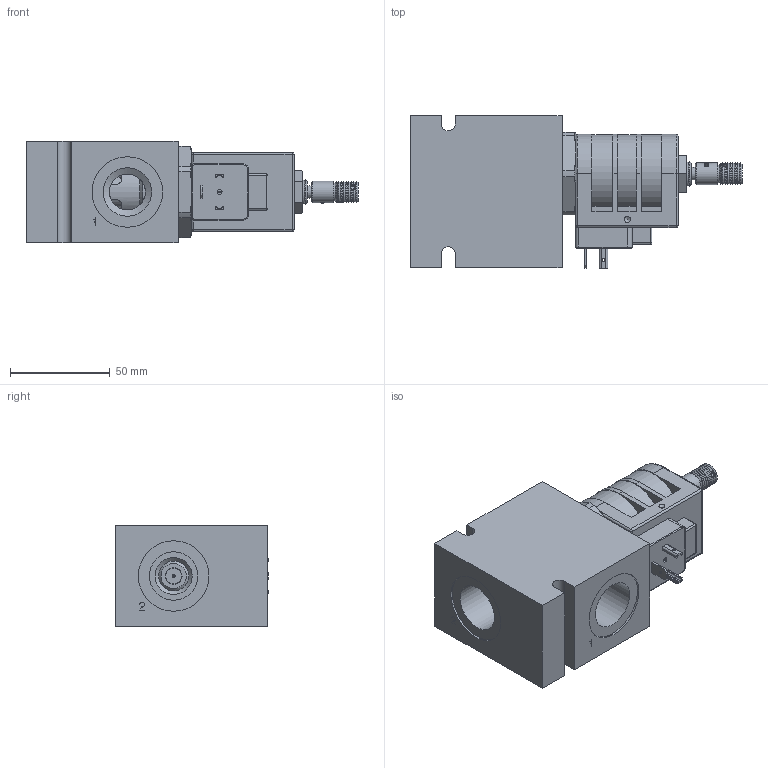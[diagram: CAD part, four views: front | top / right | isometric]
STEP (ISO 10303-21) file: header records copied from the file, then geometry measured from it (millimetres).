
FILE_DESCRIPTION( ( 'Unknown' ), '1' );
FILE_NAME( 'G:/Graphic Design/Graphic Design 2/Data Sheets/SOLENOID OPERATED VALVES/4_STEP/2W2P Normally Closed/SJ-S2A0M-D2.stp', 'Unknown', ( 'Unknown' ), ( 'Unknown' ), 'PSStep 15.0.49', 'Unknown', ' ' );
FILE_SCHEMA( ( 'AUTOMOTIVE_DESIGN { 1 0 10303 214 1 1 1 1 }' ) );
Length unit declared in the file: millimetre
Products named in the file (19): D-SJ-S2A-0M-delta; SJS2A0M-3D Full1; SJS2A0M-3D Full2; SJS2A0M-3D Full3; SJS2A0M-3D Full5; SJS2A0M-3D Full6; SJS2A0M-3D Full4; Delta_1_2_nut1 - Copy; D-DHC12_24; DHC-Body; DHC-Disc; DHC-Disc-oa0; PT-EL-HC-TerminalConnectors; Assem1; B-DSJD2
Assembly tree (18 placements, depth 3):
  Assem1
    B-DSJD2
    D-DHC12_24
      DHC-Body
      DHC-Disc
      DHC-Disc-oa0
      PT-EL-HC-TerminalConnectors
      PT-EL-HC-TerminalConnectors
      PT-EL-HC-TerminalConnectors
      PT-EL-HC-TerminalConnectors
    D-SJ-S2A-0M-delta
      SJS2A0M-3D Full1
      SJS2A0M-3D Full2
      SJS2A0M-3D Full3
      SJS2A0M-3D Full5
      SJS2A0M-3D Full6
      SJS2A0M-3D Full4
      SJS2A0M-3D Full4
      Delta_1_2_nut1 - Copy
Bounding box: 166.4 x 76.4 x 50.8 mm (x, y, z)
Volume: 308122.4 mm3; surface area: 73731.3 mm2
Topology: 14 solids, 221 shells, 760 faces, 2306 edges, 1688 vertices
Faces by surface type: plane 333, cone 176, extrusion 118, cylinder 111, torus 16, sphere 6
Full cylindrical faces by diameter (mm): 0.2 x2, 0.813 x1, 1 x1, 1.5 x3, 2.426 x2, 2.5 x1, 3 x2, 6.756 x6, 7.899 x2, 8.382 x1, 9.144 x1, 10.171 x1, 10.922 x1, 12.675 x1, 12.7 x2, 13 x1, 14.986 x1, 16.002 x1, 18 x1, 18.796 x1, 19.094 x1, 24.054 x1, 24.105 x1, 24.3 x4, 25.4 x2, 26.924 x1, 28.423 x1, 28.524 x2, 28.651 x1, 29.85 x2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
Entity records: 34527 total; most frequent: CARTESIAN_POINT 9521, DIRECTION 3469, ORIENTED_EDGE 3418, EDGE_CURVE 2088, VERTEX_POINT 1666, AXIS2_PLACEMENT_3D 1262, EDGE_LOOP 1029, VECTOR 945
